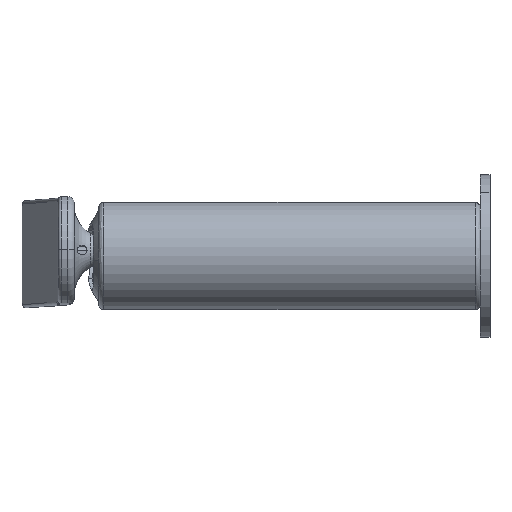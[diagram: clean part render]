
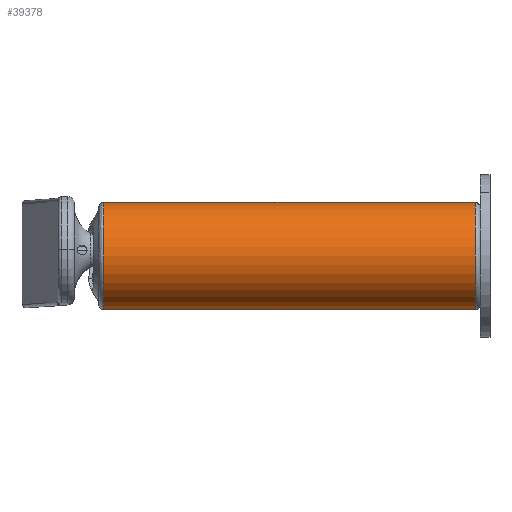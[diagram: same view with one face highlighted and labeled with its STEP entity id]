
A CAD part, left-side view. The second image highlights one B-rep face of the part: STEP entity #39378.
In plain terms, the highlighted cylindrical face has radius 16.5 mm (diameter 33 mm), a partial arc.
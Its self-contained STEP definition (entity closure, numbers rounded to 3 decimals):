
#467 = DIRECTION ( 'NONE',  ( 0., -1., 0. ) ) ;
#1370 = VERTEX_POINT ( 'NONE', #68381 ) ;
#3343 = CARTESIAN_POINT ( 'NONE',  ( 0., 134.5, 16.5 ) ) ;
#7328 = EDGE_CURVE ( 'NONE', #10101, #95594, #33643, .T. ) ;
#9969 = CIRCLE ( 'NONE', #58056, 16.5 ) ;
#10101 = VERTEX_POINT ( 'NONE', #3343 ) ;
#13372 = ORIENTED_EDGE ( 'NONE', *, *, #63383, .T. ) ;
#13419 = EDGE_CURVE ( 'NONE', #35829, #95594, #9969, .T. ) ;
#14317 = AXIS2_PLACEMENT_3D ( 'NONE', #91191, #92194, #61096 ) ;
#14573 = CARTESIAN_POINT ( 'NONE',  ( 0., 20., 16.5 ) ) ;
#17019 = CARTESIAN_POINT ( 'NONE',  ( 0., 134., -16.5 ) ) ;
#17632 = EDGE_CURVE ( 'NONE', #1370, #35829, #69248, .T. ) ;
#18220 = VECTOR ( 'NONE', #467, 1000. ) ;
#18589 = CARTESIAN_POINT ( 'NONE',  ( 0., 134., 16.5 ) ) ;
#24634 = ORIENTED_EDGE ( 'NONE', *, *, #13419, .T. ) ;
#27135 = DIRECTION ( 'NONE',  ( 0., -1., 0. ) ) ;
#28244 = AXIS2_PLACEMENT_3D ( 'NONE', #52843, #66459, #90485 ) ;
#33643 = LINE ( 'NONE', #18589, #51308 ) ;
#34018 = CARTESIAN_POINT ( 'NONE',  ( 0., 20., -16.5 ) ) ;
#34148 = DIRECTION ( 'NONE',  ( 0., 1., 0. ) ) ;
#34412 = EDGE_LOOP ( 'NONE', ( #55322, #13372, #38807, #24634 ) ) ;
#35316 = FACE_OUTER_BOUND ( 'NONE', #34412, .T. ) ;
#35829 = VERTEX_POINT ( 'NONE', #34018 ) ;
#38807 = ORIENTED_EDGE ( 'NONE', *, *, #17632, .T. ) ;
#39378 = ADVANCED_FACE ( 'NONE', ( #35316 ), #83487, .T. ) ;
#49530 = CIRCLE ( 'NONE', #14317, 16.5 ) ;
#51308 = VECTOR ( 'NONE', #27135, 1000. ) ;
#52843 = CARTESIAN_POINT ( 'NONE',  ( 0., 134., 0. ) ) ;
#55322 = ORIENTED_EDGE ( 'NONE', *, *, #7328, .F. ) ;
#58056 = AXIS2_PLACEMENT_3D ( 'NONE', #72287, #34148, #64786 ) ;
#61096 = DIRECTION ( 'NONE',  ( 0., 0., -1. ) ) ;
#63383 = EDGE_CURVE ( 'NONE', #10101, #1370, #49530, .T. ) ;
#64786 = DIRECTION ( 'NONE',  ( 0., 0., -1. ) ) ;
#66459 = DIRECTION ( 'NONE',  ( 0., -1., 0. ) ) ;
#68381 = CARTESIAN_POINT ( 'NONE',  ( 0., 134.5, -16.5 ) ) ;
#69248 = LINE ( 'NONE', #17019, #18220 ) ;
#72287 = CARTESIAN_POINT ( 'NONE',  ( 0., 20., 0. ) ) ;
#83487 = CYLINDRICAL_SURFACE ( 'NONE', #28244, 16.5 ) ;
#90485 = DIRECTION ( 'NONE',  ( 0., 0., -1. ) ) ;
#91191 = CARTESIAN_POINT ( 'NONE',  ( 0., 134.5, 0. ) ) ;
#92194 = DIRECTION ( 'NONE',  ( 0., -1., 0. ) ) ;
#95594 = VERTEX_POINT ( 'NONE', #14573 ) ;
